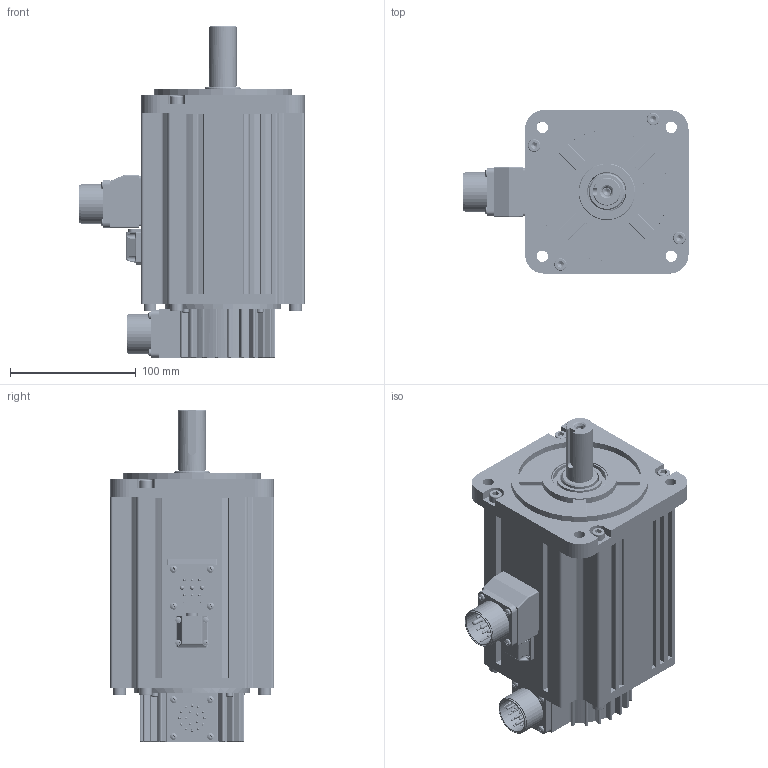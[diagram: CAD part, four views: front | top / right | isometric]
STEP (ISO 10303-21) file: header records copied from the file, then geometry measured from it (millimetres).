
FILE_DESCRIPTION((''),'2;1');
FILE_NAME('M-13E4K3A0_ASM','2019-06-13T',('zhouqs2'),(''),'CREO PARAMETRIC BY PTC INC, 2015480','CREO PARAMETRIC BY PTC INC, 2015480','');
FILE_SCHEMA(('CONFIG_CONTROL_DESIGN'));
Products named in the file (24): 80D2003201; 80Q0003401; 80S2000601; ASM0001_ASM; 80D5005901; 80D2003101; 80D2000901; 80G3000501; MJ01-8033; MJ01-8041; PRT0013; 80T5001501_ASM; 80G6000101; 80G3000201; PRT0012; MJ01-8042; 80S6000401; 001_ASM; MJ01-8038; 80S6002801; 80S5000101; MJ01-8035; ASM0002_ASM; M-13E4K3A0_ASM
Assembly tree (42 placements, depth 3):
  M-13E4K3A0_ASM
    ASM0001_ASM
      80D2003201
      80Q0003401
      80S2000601
    80D5005901
    80D2003101
    80T5001501_ASM
      80D2000901
      80G3000501
      MJ01-8033  x4
      MJ01-8041  x4
      PRT0013
    001_ASM
      80G6000101
      80G3000201
      PRT0012
      MJ01-8042  x4
      80S6000401
    MJ01-8038  x8
    ASM0002_ASM
      80S6002801
      80S5000101
      MJ01-8035  x4
Bounding box: 179 x 130 x 264.05 mm (x, y, z)
Volume: 648805.3 mm3; surface area: 363580.1 mm2
Topology: 37 solids, 71 shells, 6012 faces, 13264 edges, 7326 vertices
Faces by surface type: cone 2743, cylinder 2245, plane 872, sphere 126, torus 26
Entity records: 70482 total; most frequent: CARTESIAN_POINT 13605, DIRECTION 12845, ORIENTED_EDGE 11120, EDGE_CURVE 5616, AXIS2_PLACEMENT_3D 5019, VERTEX_POINT 3393, VECTOR 2807, LINE 2807
